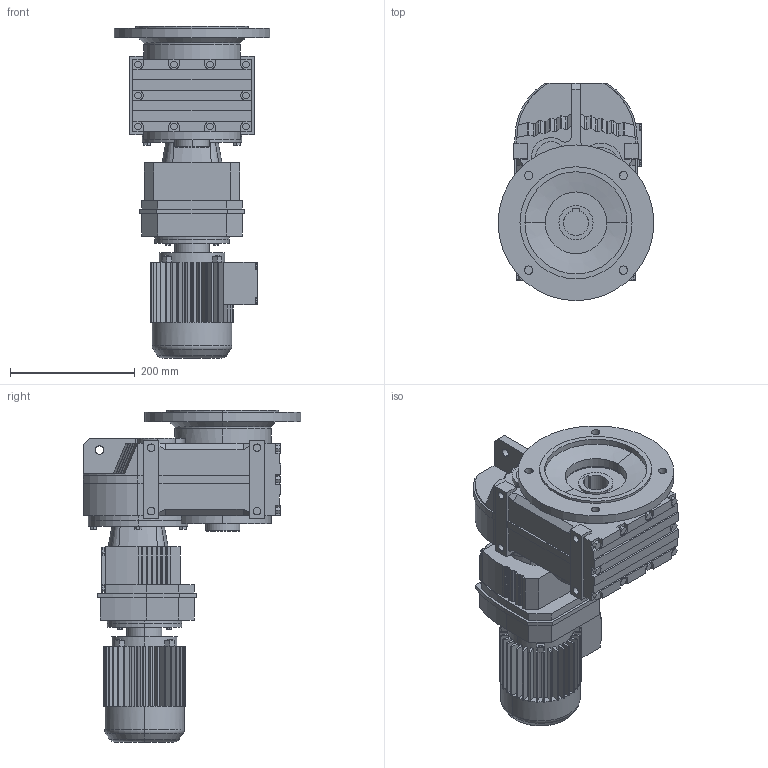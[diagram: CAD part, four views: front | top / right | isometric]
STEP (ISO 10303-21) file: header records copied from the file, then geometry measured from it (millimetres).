
FILE_DESCRIPTION(('Open CASCADE Model'),'2;1');
FILE_NAME('Open CASCADE Shape Model','2021-07-24T11:19:41',('Author'),( 'Open CASCADE'),'Open CASCADE STEP processor 6.3','Open CASCADE 6.3' ,'Unknown');
FILE_SCHEMA(('AUTOMOTIVE_DESIGN_CC2 { 1 2 10303 214 -1 1 5 4 }'));
Length unit declared in the file: millimetre
Products named in the file (6): 1_FAF57R37DR63; FAZ27‵157_57.step; 萇儂_120-DR63-191-246-132-105.step; R_57_37.step; す瑩諾陑粣F_57.step; 楊擘F_57.step
Assembly tree (5 placements, depth 2):
  1_FAF57R37DR63
    FAZ27‵157_57.step
    萇儂_120-DR63-191-246-132-105.step
    R_57_37.step
    す瑩諾陑粣F_57.step
    楊擘F_57.step
Bounding box: 250 x 349 x 533 mm (x, y, z)
Volume: 12717258.1 mm3; surface area: 825533 mm2
Topology: 5 solids, 5 shells, 1030 faces, 2727 edges, 1784 vertices
Faces by surface type: plane 756, cylinder 240, bspline 16, cone 14, torus 4
Entity records: 68970 total; most frequent: CARTESIAN_POINT 16176, DIRECTION 9310, LINE 5503, VECTOR 5503, ORIENTED_EDGE 5454, PCURVE 5454, DEFINITIONAL_REPRESENTATION 5454, EDGE_CURVE 2727
